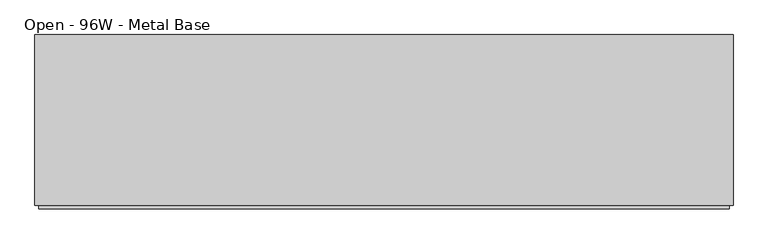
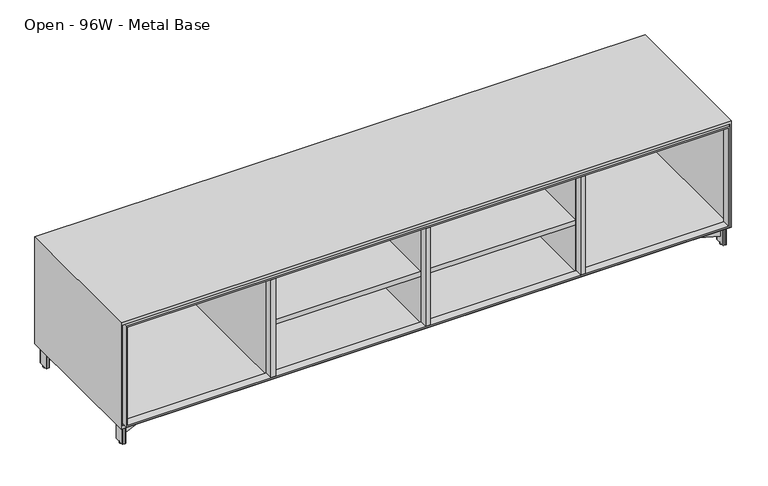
"""IFC4 building model written with IfcOpenShell, lengths in millimetres: furniture geometry, Steelcase Coalesse - Exponents - Storage - Credenza - 21H : Open - 96W - Metal Base."""

import ifcopenshell
import ifcopenshell.guid

model = None  # the IFC model being written
_history = None  # IfcOwnerHistory: only IFC2X3 demands one
_inside = {}  # id of a spatial element -> (the spatial element, [elements in it])
_under = {}  # id of a project, library or spatial element -> (it, [spatial elements below it])
_declared = {}  # id of a project -> (the project, [libraries it declares])
_typed = {}  # id of a type object -> (the type object, [elements of that type])
_made_of = {}  # id of a material, layer set ... -> (it, [elements and type objects made of it])


def new_model(schema):
    """Start an empty IFC model of exactly this schema.

    Asked for "IFC4X3", IfcOpenShell would pick the latest addendum, in which some entities
    have other attributes; the version numbers below select the first issue.
    IFC2X3 requires an IfcOwnerHistory on every rooted entity: one is made here for all.
    """
    global model, _history
    if schema == "IFC4X3":
        model = ifcopenshell.file(schema_version=(4, 3, 0, 0))
    else:
        model = ifcopenshell.file(schema=schema)
    _inside.clear()
    _under.clear()
    _declared.clear()
    _typed.clear()
    _made_of.clear()
    _history = None
    if model.schema == "IFC2X3":
        org = make("IfcOrganization", Name="unknown")
        user = make(
            "IfcPersonAndOrganization",
            ThePerson=make("IfcPerson", FamilyName="unknown"),
            TheOrganization=org,
        )
        app = make(
            "IfcApplication",
            ApplicationDeveloper=org,
            Version="unknown",
            ApplicationFullName="unknown",
            ApplicationIdentifier="unknown",
        )
        _history = make(
            "IfcOwnerHistory",
            OwningUser=user,
            OwningApplication=app,
            ChangeAction="ADDED",
            CreationDate=0,
        )
    return model


def make(cls, **values):
    """One entity of the class cls with the attributes given. An attribute that is None is left unset."""
    return model.create_entity(
        cls, **{name: value for name, value in values.items() if value is not None}
    )


def rooted(cls, **values):
    """An entity with a GlobalId (a new one), such as an element, a storey or a relation."""
    return make(cls, GlobalId=ifcopenshell.guid.new(), OwnerHistory=_history, **values)


def si_unit(unit_type, name, prefix=None):
    """IfcSIUnit, for example si_unit("LENGTHUNIT", "METRE", prefix="MILLI")."""
    return make("IfcSIUnit", UnitType=unit_type, Prefix=prefix, Name=name)


def assignment(units):
    """IfcUnitAssignment: the units of a project."""
    return None if units is None else make("IfcUnitAssignment", Units=units)


def point(xyz):
    """IfcCartesianPoint."""
    return None if xyz is None else make("IfcCartesianPoint", Coordinates=xyz)


def direction(xyz):
    """IfcDirection."""
    return None if xyz is None else make("IfcDirection", DirectionRatios=xyz)


def frame(location, z_axis=None, x_axis=None):
    """IfcAxis2Placement3D, a coordinate frame: its origin and axes. An axis left out is left unset."""
    return make(
        "IfcAxis2Placement3D",
        Location=point(location),
        Axis=direction(z_axis),
        RefDirection=direction(x_axis),
    )


def frame_2d(location, x_axis=None):
    """IfcAxis2Placement2D, a coordinate frame in the plane: its origin and x axis."""
    return make(
        "IfcAxis2Placement2D", Location=point(location), RefDirection=direction(x_axis)
    )


def origin():
    """The frame at (0, 0, 0) with its axes left unset."""
    return frame((0.0, 0.0, 0.0))


def origin_with_axes():
    """The frame at (0, 0, 0) with the z axis (0, 0, 1) and the x axis (1, 0, 0) written out."""
    return frame((0.0, 0.0, 0.0), z_axis=(0.0, 0.0, 1.0), x_axis=(1.0, 0.0, 0.0))


def place(relative_to, where):
    """IfcLocalPlacement: puts the frame where relative to a parent placement (None: the world)."""
    return make(
        "IfcLocalPlacement", PlacementRelTo=relative_to, RelativePlacement=where
    )


def context(
    kind, dimensions, precision=None, world=None, true_north=None, identifier=None
):
    """IfcGeometricRepresentationContext, for example the 3D "Model" context."""
    return make(
        "IfcGeometricRepresentationContext",
        ContextIdentifier=identifier,
        ContextType=kind,
        CoordinateSpaceDimension=dimensions,
        Precision=precision,
        WorldCoordinateSystem=world,
        TrueNorth=true_north,
    )


def project(units=None, contexts=None):
    """IfcProject with its units and contexts."""
    return rooted(
        "IfcProject",
        Name="project",
        RepresentationContexts=contexts,
        UnitsInContext=assignment(units),
    )


def spatial(cls, under=None, at=None, **own):
    """A site, building, storey or space (cls), placed at a placement, below another one or the project."""
    s = rooted(cls, ObjectPlacement=at, **own)
    if under is not None:
        _under.setdefault(under.id(), (under, []))[1].append(s)
    return s


def polyline(points):
    """IfcPolyline through the points."""
    return make("IfcPolyline", Points=[point(p) for p in points])


def circle_curve(where, radius):
    """IfcCircle in the frame where."""
    return make("IfcCircle", Position=where, Radius=radius)


def trimmed(basis, trim1, trim2, sense, master):
    """IfcTrimmedCurve: the piece of a basis curve between two trims."""
    return make(
        "IfcTrimmedCurve",
        BasisCurve=basis,
        Trim1=trim1,
        Trim2=trim2,
        SenseAgreement=sense,
        MasterRepresentation=master,
    )


def segment(curve, same_sense, transition):
    """IfcCompositeCurveSegment."""
    return make(
        "IfcCompositeCurveSegment",
        Transition=transition,
        SameSense=same_sense,
        ParentCurve=curve,
    )


def composite_curve(segments, self_intersect=None):
    """IfcCompositeCurve: segments joined end to end."""
    return make("IfcCompositeCurve", Segments=segments, SelfIntersect=self_intersect)


def outline(outer, holes=None, kind="AREA"):
    """IfcArbitraryClosedProfileDef: a profile drawn as a closed curve; with holes, ...WithVoids."""
    if holes is None:
        return make("IfcArbitraryClosedProfileDef", ProfileType=kind, OuterCurve=outer)
    return make(
        "IfcArbitraryProfileDefWithVoids",
        ProfileType=kind,
        OuterCurve=outer,
        InnerCurves=holes,
    )


def extrude(swept, where, along, depth):
    """IfcExtrudedAreaSolid: the profile swept, set in the frame where, extruded along a direction by depth."""
    return make(
        "IfcExtrudedAreaSolid",
        SweptArea=swept,
        Position=where,
        ExtrudedDirection=direction(along),
        Depth=depth,
    )


def faces_of(points, faces, orient=None, outer=None):
    """IfcFace entities. A face is a list of loops; a loop is a list of indices into points, from 0.

    orient and outer hold one flag for each loop. By default every Orientation is true, the
    first loop of a face is its IfcFaceOuterBound and the others are IfcFaceBound.
    """
    made = []
    for i, loops in enumerate(faces):
        bounds = []
        for j, loop in enumerate(loops):
            is_outer = j == 0 if outer is None else outer[i][j]
            bounds.append(
                make(
                    "IfcFaceOuterBound" if is_outer else "IfcFaceBound",
                    Bound=make("IfcPolyLoop", Polygon=[points[k] for k in loop]),
                    Orientation=True if orient is None else orient[i][j],
                )
            )
        made.append(make("IfcFace", Bounds=bounds))
    return made


def faceted_brep(points, faces, orient=None, outer=None, voids=None):
    """IfcFacetedBrep: a solid bounded by flat faces; with voids (closed shells), ...WithVoids."""
    shared = [point(p) for p in points]
    hull = make("IfcClosedShell", CfsFaces=faces_of(shared, faces, orient, outer))
    if voids is None:
        return make("IfcFacetedBrep", Outer=hull)
    return make(
        "IfcFacetedBrepWithVoids",
        Outer=hull,
        Voids=[
            make(cls, CfsFaces=faces_of(shared, fs, o, b)) for cls, fs, o, b in voids
        ],
    )


def shape(context_of_items, identifier, shape_type, items):
    """IfcShapeRepresentation: the items that make up one representation, for example the "Body"."""
    return make(
        "IfcShapeRepresentation",
        ContextOfItems=context_of_items,
        RepresentationIdentifier=identifier,
        RepresentationType=shape_type,
        Items=items,
    )


def source(mapping_origin, context_of_items, identifier, shape_type, items):
    """IfcRepresentationMap: a shape defined once, which mapped items show again and again."""
    return make(
        "IfcRepresentationMap",
        MappingOrigin=mapping_origin,
        MappedRepresentation=shape(context_of_items, identifier, shape_type, items),
    )


def transform(
    local_origin,
    x_axis=None,
    y_axis=None,
    z_axis=None,
    scale=None,
    scale2=None,
    scale3=None,
    uniform=True,
):
    """IfcCartesianTransformationOperator3D, or its non-uniform kind. x_axis, y_axis, z_axis: its Axis1, 2, 3."""
    if uniform:
        return make(
            "IfcCartesianTransformationOperator3D",
            Axis1=direction(x_axis),
            Axis2=direction(y_axis),
            LocalOrigin=point(local_origin),
            Scale=scale,
            Axis3=direction(z_axis),
        )
    return make(
        "IfcCartesianTransformationOperator3DnonUniform",
        Axis1=direction(x_axis),
        Axis2=direction(y_axis),
        LocalOrigin=point(local_origin),
        Scale=scale,
        Axis3=direction(z_axis),
        Scale2=scale2,
        Scale3=scale3,
    )


def mapped(mapping_source, mapping_target):
    """IfcMappedItem: shows the shape of a source again, moved by a transform."""
    return make(
        "IfcMappedItem", MappingSource=mapping_source, MappingTarget=mapping_target
    )


def made_of(thing, what):
    """Note that an element or type object is made of a material, layer set ...; save() writes the relation."""
    if what is not None:
        _made_of.setdefault(what.id(), (what, []))[1].append(thing)
    return thing


def element(
    cls,
    number,
    at=None,
    inside=None,
    cuts=None,
    type_object=None,
    material=None,
    context=None,
    identifier="Body",
    shape_type=None,
    held_by="IfcProductDefinitionShape",
    body=None,
    shapes=None,
    **own,
):
    """One element of the class cls, such as IfcWall. Its Tag is "e" and its number.

    at: its placement. inside: the storey or other place that contains it. cuts: it is an
    opening in that element (IfcRelVoidsElement). A single representation is given by context,
    identifier, shape_type and body (its items); several are given by shapes. held_by: the class
    of the entity that holds the representations. save() writes the other relations.
    """
    e = rooted(cls, Tag="e%d" % number, ObjectPlacement=at, **own)
    if body is not None:
        shapes = [shape(context, identifier, shape_type, body)]
    if shapes is not None:
        e.Representation = make(held_by, Representations=shapes)
    if inside is not None:
        _inside.setdefault(inside.id(), (inside, []))[1].append(e)
    if cuts is not None:
        rooted(
            "IfcRelVoidsElement", RelatingBuildingElement=cuts, RelatedOpeningElement=e
        )
    if type_object is not None:
        _typed.setdefault(type_object.id(), (type_object, []))[1].append(e)
    return made_of(e, material)


def aggregate(whole, parts):
    """IfcRelAggregates: a whole, such as a stair, and the parts it consists of."""
    return rooted("IfcRelAggregates", RelatingObject=whole, RelatedObjects=parts)


def save(model, path):
    """Write the relations noted so far, then the file.

    IfcRelAggregates (storeys below a building ...), IfcRelContainedInSpatialStructure (elements
    in a storey), IfcRelDefinesByType, IfcRelAssociatesMaterial and IfcRelDeclares: one each for
    every whole, place, type object, material and project.
    """
    for whole, parts in _under.values():
        aggregate(whole, parts)
    for where, things in _inside.values():
        rooted(
            "IfcRelContainedInSpatialStructure",
            RelatedElements=things,
            RelatingStructure=where,
        )
    for kind, things in _typed.values():
        rooted("IfcRelDefinesByType", RelatedObjects=things, RelatingType=kind)
    for what, things in _made_of.values():
        rooted("IfcRelAssociatesMaterial", RelatedObjects=things, RelatingMaterial=what)
    for by, libraries in _declared.values():
        rooted("IfcRelDeclares", RelatingContext=by, RelatedDefinitions=libraries)
    model.write(path)


def open_96w_metal_base_646967b4(model_context):
    return source(origin(), model_context, "Body", "SolidModel", [
        faceted_brep([(6.35, 31.75, 520.7), (6.35, 31.75, 95.25), (6.35, 622.3, 95.25), (6.35, 622.3, 520.7), (2432.05, 622.3, 95.25), (2432.05, 622.3, 520.7), (2432.05, 31.75, 95.25), (2432.05, 31.75, 520.7), (0.0, 31.75, 82.55), (2438.4, 31.75, 82.55), (2438.4, 31.75, 533.4), (0.0, 31.75, 533.4), (2438.4, 628.65, 82.55), (2438.4, 628.65, 533.4), (0.0, 628.65, 82.55), (0.0, 628.65, 533.4)], [[[0, 1, 2, 3]], [[3, 2, 4, 5]], [[5, 4, 6, 7]], [[8, 9, 10, 11], [7, 6, 1, 0]], [[10, 9, 12, 13]], [[13, 12, 14, 15]], [[15, 14, 8, 11]], [[7, 0, 3, 5]], [[10, 13, 15, 11]], [[1, 6, 4, 2]], [[12, 9, 8, 14]]]),
        extrude(outline(composite_curve([segment(polyline([(2414.7506426, 615.95), (2423.922, 615.95)]), True, "CONTINUOUS"), segment(trimmed(circle_curve(frame_2d((2423.922, 614.172)), 1.778), [point((2423.922, 615.95))], [point((2425.7, 614.172))], False, "CARTESIAN"), True, "CONTINUOUS"), segment(polyline([(2425.7, 614.172), (2425.7, 572.9986)]), True, "CONTINUOUS"), segment(trimmed(circle_curve(frame_2d((2423.922, 572.9986)), 1.778), [point((2425.7, 572.9986))], [point((2423.922, 571.2206))], False, "CARTESIAN"), True, "CONTINUOUS"), segment(polyline([(2423.922, 571.2206), (2414.7948916, 571.2206)]), True, "CONTINUOUS"), segment(trimmed(circle_curve(frame_2d((2414.7948916, 573.0154916)), 1.7948916), [point((2414.7948916, 571.2206))], [point((2413.0, 573.0154916))], False, "CARTESIAN"), True, "CONTINUOUS"), segment(polyline([(2413.0, 573.0154916), (2413.0, 614.1993574)]), True, "CONTINUOUS"), segment(trimmed(circle_curve(frame_2d((2414.7506426, 614.1993574)), 1.7506426), [point((2413.0, 614.1993574))], [point((2414.7506426, 615.95))], False, "CARTESIAN"), True, "CONTINUOUS")], self_intersect=False)), frame((0.0, 0.0, 6.35), z_axis=(0.0, 0.0, 1.0), x_axis=(1.0, 0.0, 0.0)), (0.0, 0.0, 1.0), 73.4568),
        extrude(outline(composite_curve([segment(polyline([(2414.7506426, 88.9), (2423.922, 88.9)]), True, "CONTINUOUS"), segment(trimmed(circle_curve(frame_2d((2423.922, 87.122)), 1.778), [point((2423.922, 88.9))], [point((2425.7, 87.122))], False, "CARTESIAN"), True, "CONTINUOUS"), segment(polyline([(2425.7, 87.122), (2425.7, 45.9486)]), True, "CONTINUOUS"), segment(trimmed(circle_curve(frame_2d((2423.922, 45.9486)), 1.778), [point((2425.7, 45.9486))], [point((2423.922, 44.1706))], False, "CARTESIAN"), True, "CONTINUOUS"), segment(polyline([(2423.922, 44.1706), (2414.7948916, 44.1706)]), True, "CONTINUOUS"), segment(trimmed(circle_curve(frame_2d((2414.7948916, 45.9654916)), 1.7948916), [point((2414.7948916, 44.1706))], [point((2413.0, 45.9654916))], False, "CARTESIAN"), True, "CONTINUOUS"), segment(polyline([(2413.0, 45.9654916), (2413.0, 87.1493574)]), True, "CONTINUOUS"), segment(trimmed(circle_curve(frame_2d((2414.7506426, 87.1493574)), 1.7506426), [point((2413.0, 87.1493574))], [point((2414.7506426, 88.9))], False, "CARTESIAN"), True, "CONTINUOUS")], self_intersect=False)), frame((0.0, 0.0, 6.35), z_axis=(0.0, 0.0, 1.0), x_axis=(1.0, 0.0, 0.0)), (0.0, 0.0, 1.0), 73.4568),
        extrude(outline(composite_curve([segment(trimmed(circle_curve(frame_2d((2419.35, 593.5667033)), 6.35), [point((2419.35, 599.9167033))], [point((2419.35, 587.2167033))], False, "CARTESIAN"), True, "CONTINUOUS"), segment(trimmed(circle_curve(frame_2d((2419.35, 593.5667033)), 6.35), [point((2419.35, 587.2167033))], [point((2419.35, 599.9167033))], False, "CARTESIAN"), True, "CONTINUOUS")], self_intersect=False)), origin_with_axes(), (0.0, 0.0, 1.0), 6.35),
        extrude(outline(composite_curve([segment(trimmed(circle_curve(frame_2d((2419.35, 66.7867854)), 6.35), [point((2419.35, 73.1367854))], [point((2419.35, 60.4367854))], False, "CARTESIAN"), True, "CONTINUOUS"), segment(trimmed(circle_curve(frame_2d((2419.35, 66.7867854)), 6.35), [point((2419.35, 60.4367854))], [point((2419.35, 73.1367854))], False, "CARTESIAN"), True, "CONTINUOUS")], self_intersect=False)), origin_with_axes(), (0.0, 0.0, 1.0), 6.35),
        extrude(outline(polyline([(1879.6, 379.0696809), (1879.6, 277.4696809), (1778.0, 277.4696809), (1778.0, 379.0696809), (1879.6, 379.0696809)])), frame((0.0, 0.0, 79.8068), z_axis=(0.0, 0.0, 1.0), x_axis=(1.0, 0.0, 0.0)), (0.0, 0.0, 1.0), 2.7432),
        extrude(outline(polyline([(520.7, 2425.7), (520.7, 12.7), (95.25, 12.7), (95.25, 2425.7), (520.7, 2425.7)]), holes=[polyline([(514.35, 2419.35), (101.6, 2419.35), (101.6, 19.05), (514.35, 19.05), (514.35, 2419.35)])]), frame((0.0, 19.05, 0.0), z_axis=(0.0, 1.0, 0.0), x_axis=(0.0, 0.0, 1.0)), (0.0, 0.0, 1.0), 31.75),
        extrude(outline(composite_curve([segment(polyline([(1821.0256426, 349.25), (1836.547, 349.25)]), True, "CONTINUOUS"), segment(trimmed(circle_curve(frame_2d((1836.547, 347.472)), 1.778), [point((1836.547, 349.25))], [point((1838.325, 347.472))], False, "CARTESIAN"), True, "CONTINUOUS"), segment(polyline([(1838.325, 347.472), (1838.325, 312.928)]), True, "CONTINUOUS"), segment(trimmed(circle_curve(frame_2d((1836.547, 312.928)), 1.778), [point((1838.325, 312.928))], [point((1836.547, 311.15))], False, "CARTESIAN"), True, "CONTINUOUS"), segment(polyline([(1836.547, 311.15), (1821.0698916, 311.15)]), True, "CONTINUOUS"), segment(trimmed(circle_curve(frame_2d((1821.0698916, 312.9448916)), 1.7948916), [point((1821.0698916, 311.15))], [point((1819.275, 312.9448916))], False, "CARTESIAN"), True, "CONTINUOUS"), segment(polyline([(1819.275, 312.9448916), (1819.275, 347.4993574)]), True, "CONTINUOUS"), segment(trimmed(circle_curve(frame_2d((1821.0256426, 347.4993574)), 1.7506426), [point((1819.275, 347.4993574))], [point((1821.0256426, 349.25))], False, "CARTESIAN"), True, "CONTINUOUS")], self_intersect=False)), frame((0.0, 0.0, 6.35), z_axis=(0.0, 0.0, 1.0), x_axis=(1.0, 0.0, 0.0)), (0.0, 0.0, 1.0), 73.4568),
        extrude(outline(polyline([(1830.0800308, 345.280854), (2413.0, 598.591626), (2413.0, 577.8206777), (1843.1741031, 330.2), (2413.0, 82.5793223), (2413.0, 61.808374), (1830.377267, 314.9899805), (1836.8101738, 329.7934165), (1830.0800308, 345.280854)])), frame((0.0, 0.0, 34.925), z_axis=(0.0, 0.0, 1.0), x_axis=(1.0, 0.0, 0.0)), (0.0, 0.0, 1.0), 44.8818),
        extrude(outline(polyline([(2432.05, 520.7), (2330.45, 520.7), (2330.45, 622.3), (2432.05, 622.3), (2432.05, 520.7)])), frame((0.0, 0.0, 79.8068), z_axis=(0.0, 0.0, 1.0), x_axis=(1.0, 0.0, 0.0)), (0.0, 0.0, 1.0), 2.7432),
        extrude(outline(polyline([(2432.05, 139.7), (2432.05, 38.1), (2330.45, 38.1), (2330.45, 139.7), (2432.05, 139.7)])), frame((0.0, 0.0, 79.8068), z_axis=(0.0, 0.0, 1.0), x_axis=(1.0, 0.0, 0.0)), (0.0, 0.0, 1.0), 2.7432),
        extrude(outline(composite_curve([segment(trimmed(circle_curve(frame_2d((1828.6250692, 330.5590189)), 6.35), [point((1828.6250692, 336.9090189))], [point((1828.6250692, 324.2090189))], False, "CARTESIAN"), True, "CONTINUOUS"), segment(trimmed(circle_curve(frame_2d((1828.6250692, 330.5590189)), 6.35), [point((1828.6250692, 324.2090189))], [point((1828.6250692, 336.9090189))], False, "CARTESIAN"), True, "CONTINUOUS")], self_intersect=False)), origin_with_axes(), (0.0, 0.0, 1.0), 6.35),
        extrude(outline(composite_curve([segment(trimmed(circle_curve(frame_2d((1219.2, 330.5590189)), 6.35), [point((1219.2, 324.2090189))], [point((1219.2, 336.9090189))], False, "CARTESIAN"), True, "CONTINUOUS"), segment(trimmed(circle_curve(frame_2d((1219.2, 330.5590189)), 6.35), [point((1219.2, 336.9090189))], [point((1219.2, 324.2090189))], False, "CARTESIAN"), True, "CONTINUOUS")], self_intersect=False)), origin_with_axes(), (0.0, 0.0, 1.0), 6.35),
        extrude(outline(polyline([(1168.4, 379.0696809), (1270.0, 379.0696809), (1270.0, 277.4696809), (1168.4, 277.4696809), (1168.4, 379.0696809)])), frame((0.0, 0.0, 79.8068), z_axis=(0.0, 0.0, 1.0), x_axis=(1.0, 0.0, 0.0)), (0.0, 0.0, 1.0), 2.7432),
        extrude(outline(composite_curve([segment(trimmed(circle_curve(frame_2d((1226.9743574, 347.4993574)), 1.7506426), [point((1226.9743574, 349.25))], [point((1228.725, 347.4993574))], False, "CARTESIAN"), True, "CONTINUOUS"), segment(polyline([(1228.725, 347.4993574), (1228.725, 312.9448916)]), True, "CONTINUOUS"), segment(trimmed(circle_curve(frame_2d((1226.9301084, 312.9448916)), 1.7948916), [point((1228.725, 312.9448916))], [point((1226.9301084, 311.15))], False, "CARTESIAN"), True, "CONTINUOUS"), segment(polyline([(1226.9301084, 311.15), (1211.453, 311.15)]), True, "CONTINUOUS"), segment(trimmed(circle_curve(frame_2d((1211.453, 312.928)), 1.778), [point((1211.453, 311.15))], [point((1209.675, 312.928))], False, "CARTESIAN"), True, "CONTINUOUS"), segment(polyline([(1209.675, 312.928), (1209.675, 347.472)]), True, "CONTINUOUS"), segment(trimmed(circle_curve(frame_2d((1211.453, 347.472)), 1.778), [point((1209.675, 347.472))], [point((1211.453, 349.25))], False, "CARTESIAN"), True, "CONTINUOUS"), segment(polyline([(1211.453, 349.25), (1226.9743574, 349.25)]), True, "CONTINUOUS")], self_intersect=False)), frame((0.0, 0.0, 6.35), z_axis=(0.0, 0.0, 1.0), x_axis=(1.0, 0.0, 0.0)), (0.0, 0.0, 1.0), 73.4568),
        extrude(outline(composite_curve([segment(trimmed(circle_curve(frame_2d((23.6493574, 614.1993574)), 1.7506426), [point((23.6493574, 615.95))], [point((25.4, 614.1993574))], False, "CARTESIAN"), True, "CONTINUOUS"), segment(polyline([(25.4, 614.1993574), (25.4, 573.0154916)]), True, "CONTINUOUS"), segment(trimmed(circle_curve(frame_2d((23.6051084, 573.0154916)), 1.7948916), [point((25.4, 573.0154916))], [point((23.6051084, 571.2206))], False, "CARTESIAN"), True, "CONTINUOUS"), segment(polyline([(23.6051084, 571.2206), (14.478, 571.2206)]), True, "CONTINUOUS"), segment(trimmed(circle_curve(frame_2d((14.478, 572.9986)), 1.778), [point((14.478, 571.2206))], [point((12.7, 572.9986))], False, "CARTESIAN"), True, "CONTINUOUS"), segment(polyline([(12.7, 572.9986), (12.7, 614.172)]), True, "CONTINUOUS"), segment(trimmed(circle_curve(frame_2d((14.478, 614.172)), 1.778), [point((12.7, 614.172))], [point((14.478, 615.95))], False, "CARTESIAN"), True, "CONTINUOUS"), segment(polyline([(14.478, 615.95), (23.6493574, 615.95)]), True, "CONTINUOUS")], self_intersect=False)), frame((0.0, 0.0, 6.35), z_axis=(0.0, 0.0, 1.0), x_axis=(1.0, 0.0, 0.0)), (0.0, 0.0, 1.0), 73.4568),
        extrude(outline(composite_curve([segment(trimmed(circle_curve(frame_2d((23.6493574, 87.1493574)), 1.7506426), [point((23.6493574, 88.9))], [point((25.4, 87.1493574))], False, "CARTESIAN"), True, "CONTINUOUS"), segment(polyline([(25.4, 87.1493574), (25.4, 45.9654916)]), True, "CONTINUOUS"), segment(trimmed(circle_curve(frame_2d((23.6051084, 45.9654916)), 1.7948916), [point((25.4, 45.9654916))], [point((23.6051084, 44.1706))], False, "CARTESIAN"), True, "CONTINUOUS"), segment(polyline([(23.6051084, 44.1706), (14.478, 44.1706)]), True, "CONTINUOUS"), segment(trimmed(circle_curve(frame_2d((14.478, 45.9486)), 1.778), [point((14.478, 44.1706))], [point((12.7, 45.9486))], False, "CARTESIAN"), True, "CONTINUOUS"), segment(polyline([(12.7, 45.9486), (12.7, 87.122)]), True, "CONTINUOUS"), segment(trimmed(circle_curve(frame_2d((14.478, 87.122)), 1.778), [point((12.7, 87.122))], [point((14.478, 88.9))], False, "CARTESIAN"), True, "CONTINUOUS"), segment(polyline([(14.478, 88.9), (23.6493574, 88.9)]), True, "CONTINUOUS")], self_intersect=False)), frame((0.0, 0.0, 6.35), z_axis=(0.0, 0.0, 1.0), x_axis=(1.0, 0.0, 0.0)), (0.0, 0.0, 1.0), 73.4568),
        extrude(outline(composite_curve([segment(trimmed(circle_curve(frame_2d((617.3743574, 347.4993574)), 1.7506426), [point((617.3743574, 349.25))], [point((619.125, 347.4993574))], False, "CARTESIAN"), True, "CONTINUOUS"), segment(polyline([(619.125, 347.4993574), (619.125, 312.9448916)]), True, "CONTINUOUS"), segment(trimmed(circle_curve(frame_2d((617.3301084, 312.9448916)), 1.7948916), [point((619.125, 312.9448916))], [point((617.3301084, 311.15))], False, "CARTESIAN"), True, "CONTINUOUS"), segment(polyline([(617.3301084, 311.15), (601.853, 311.15)]), True, "CONTINUOUS"), segment(trimmed(circle_curve(frame_2d((601.853, 312.928)), 1.778), [point((601.853, 311.15))], [point((600.075, 312.928))], False, "CARTESIAN"), True, "CONTINUOUS"), segment(polyline([(600.075, 312.928), (600.075, 347.472)]), True, "CONTINUOUS"), segment(trimmed(circle_curve(frame_2d((601.853, 347.472)), 1.778), [point((600.075, 347.472))], [point((601.853, 349.25))], False, "CARTESIAN"), True, "CONTINUOUS"), segment(polyline([(601.853, 349.25), (617.3743574, 349.25)]), True, "CONTINUOUS")], self_intersect=False)), frame((0.0, 0.0, 6.35), z_axis=(0.0, 0.0, 1.0), x_axis=(1.0, 0.0, 0.0)), (0.0, 0.0, 1.0), 73.4568),
        extrude(outline(polyline([(608.3199692, 345.280854), (601.5898262, 329.7934165), (608.022733, 314.9899805), (25.4, 61.808374), (25.4, 82.5793223), (595.2258969, 330.2), (25.4, 577.8206777), (25.4, 598.591626), (608.3199692, 345.280854)])), frame((0.0, 0.0, 34.925), z_axis=(0.0, 0.0, 1.0), x_axis=(1.0, 0.0, 0.0)), (0.0, 0.0, 1.0), 44.8818),
        extrude(outline(polyline([(6.35, 520.7), (6.35, 622.3), (107.95, 622.3), (107.95, 520.7), (6.35, 520.7)])), frame((0.0, 0.0, 79.8068), z_axis=(0.0, 0.0, 1.0), x_axis=(1.0, 0.0, 0.0)), (0.0, 0.0, 1.0), 2.7432),
        extrude(outline(polyline([(6.35, 139.7), (107.95, 139.7), (107.95, 38.1), (6.35, 38.1), (6.35, 139.7)])), frame((0.0, 0.0, 79.8068), z_axis=(0.0, 0.0, 1.0), x_axis=(1.0, 0.0, 0.0)), (0.0, 0.0, 1.0), 2.7432),
        extrude(outline(polyline([(558.8, 379.0696809), (660.4, 379.0696809), (660.4, 277.4696809), (558.8, 277.4696809), (558.8, 379.0696809)])), frame((0.0, 0.0, 79.8068), z_axis=(0.0, 0.0, 1.0), x_axis=(1.0, 0.0, 0.0)), (0.0, 0.0, 1.0), 2.7432),
        extrude(outline(composite_curve([segment(trimmed(circle_curve(frame_2d((19.05, 593.5667033)), 6.35), [point((12.7, 593.5667033))], [point((25.4, 593.5667033))], False, "CARTESIAN"), True, "CONTINUOUS"), segment(trimmed(circle_curve(frame_2d((19.05, 593.5667033)), 6.35), [point((25.4, 593.5667033))], [point((12.7, 593.5667033))], False, "CARTESIAN"), True, "CONTINUOUS")], self_intersect=False)), origin_with_axes(), (0.0, 0.0, 1.0), 6.35),
        extrude(outline(composite_curve([segment(trimmed(circle_curve(frame_2d((19.05, 66.7867854)), 6.35), [point((12.7, 66.7867854))], [point((25.4, 66.7867854))], False, "CARTESIAN"), True, "CONTINUOUS"), segment(trimmed(circle_curve(frame_2d((19.05, 66.7867854)), 6.35), [point((25.4, 66.7867854))], [point((12.7, 66.7867854))], False, "CARTESIAN"), True, "CONTINUOUS")], self_intersect=False)), origin_with_axes(), (0.0, 0.0, 1.0), 6.35),
        extrude(outline(composite_curve([segment(trimmed(circle_curve(frame_2d((609.7749308, 330.5590189)), 6.35), [point((603.4249308, 330.5590189))], [point((616.1249308, 330.5590189))], False, "CARTESIAN"), True, "CONTINUOUS"), segment(trimmed(circle_curve(frame_2d((609.7749308, 330.5590189)), 6.35), [point((616.1249308, 330.5590189))], [point((603.4249308, 330.5590189))], False, "CARTESIAN"), True, "CONTINUOUS")], self_intersect=False)), origin_with_axes(), (0.0, 0.0, 1.0), 6.35),
        extrude(outline(polyline([(0.0, -19.05), (0.0, 0.0), (31.75, 0.0), (31.75, -19.05), (0.0, -19.05)])), frame((1828.8, 19.05, 101.6), z_axis=(2.934541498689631e-12, 0.0, 1.0), x_axis=(0.0, 1.0, 0.0)), (0.0, 0.0, 1.0), 412.75),
        extrude(outline(polyline([(0.0, -19.05), (0.0, 0.0), (31.75, 0.0), (31.75, -19.05), (0.0, -19.05)])), frame((1209.675, 19.05, 101.6), z_axis=(3.1477043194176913e-12, 0.0, 1.0), x_axis=(0.0, 1.0, 0.0)), (0.0, 0.0, 1.0), 412.75),
        extrude(outline(polyline([(0.0, -19.05), (0.0, 0.0), (31.75, 0.0), (31.75, -19.05), (0.0, -19.05)])), frame((590.55, 19.05, 101.6), z_axis=(3.3608671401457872e-12, 0.0, 1.0), x_axis=(0.0, 1.0, 0.0)), (0.0, 0.0, 1.0), 412.75),
        extrude(outline(polyline([(1209.675, 609.6), (1228.725, 609.6), (1228.725, 50.8), (1209.675, 50.8), (1209.675, 609.6)])), frame((0.0, 0.0, 95.25), z_axis=(0.0, 0.0, 1.0), x_axis=(1.0, 0.0, 0.0)), (0.0, 0.0, 1.0), 425.45),
        extrude(outline(polyline([(1828.8, 609.6), (1847.85, 609.6), (1847.85, 50.8), (1828.8, 50.8), (1828.8, 609.6)])), frame((0.0, 0.0, 95.25), z_axis=(0.0, 0.0, 1.0), x_axis=(1.0, 0.0, 0.0)), (0.0, 0.0, 1.0), 425.45),
        extrude(outline(polyline([(1828.8, 50.8), (1228.725, 50.8), (1228.725, 609.6), (1828.8, 609.6), (1828.8, 50.8)])), frame((0.0, 0.0, 295.275), z_axis=(0.0, 0.0, 1.0), x_axis=(1.0, 0.0, 0.0)), (0.0, 0.0, 1.0), 19.05),
        extrude(outline(polyline([(1209.675, 50.8), (609.6, 50.8), (609.6, 609.6), (1209.675, 609.6), (1209.675, 50.8)])), frame((0.0, 0.0, 295.275), z_axis=(0.0, 0.0, 1.0), x_axis=(1.0, 0.0, 0.0)), (0.0, 0.0, 1.0), 19.05),
        extrude(outline(polyline([(590.55, 609.6), (609.6, 609.6), (609.6, 50.8), (590.55, 50.8), (590.55, 609.6)])), frame((0.0, 0.0, 95.25), z_axis=(0.0, 0.0, 1.0), x_axis=(1.0, 0.0, 0.0)), (0.0, 0.0, 1.0), 425.45),
    ])


if __name__ == "__main__":
    model = new_model("IFC4")
    model_context = context("Model", 3, world=origin())
    ifc_project = project(units=[si_unit("LENGTHUNIT", "METRE", prefix="MILLI")], contexts=[model_context])
    site = spatial("IfcSite", under=ifc_project)
    building = spatial("IfcBuilding", under=site)
    placement = place(None, origin())
    open_96w_metal_base_shape = open_96w_metal_base_646967b4(model_context)
    element("IfcFurniture", 1, ObjectType="Steelcase Coalesse - Exponents - Storage - Credenza - 21H : Open - 96W - Metal Base", at=placement, inside=building, context=model_context, shape_type="MappedRepresentation", body=[
        mapped(open_96w_metal_base_shape, transform((0.0, 0.0, 0.0), x_axis=(1.0, 0.0, 0.0), y_axis=(0.0, 1.0, 0.0), z_axis=(0.0, 0.0, 1.0))),
    ])
    save(model, "model.ifc")
